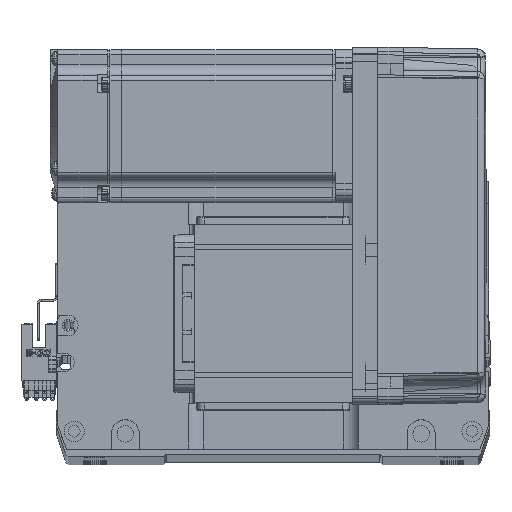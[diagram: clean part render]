
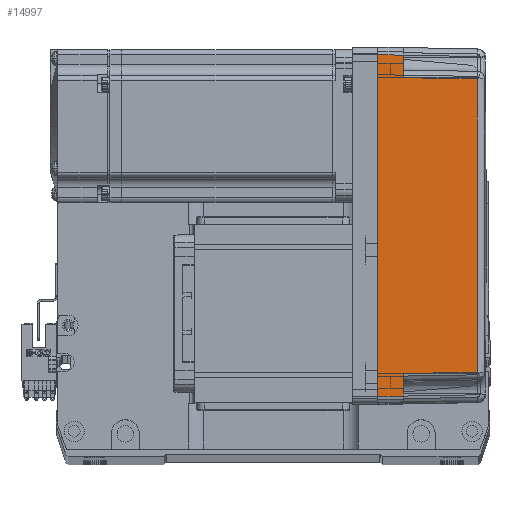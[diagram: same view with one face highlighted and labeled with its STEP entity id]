
A CAD part, top view. The second image highlights one B-rep face of the part: STEP entity #14997.
In plain terms, the highlighted planar face has unit normal (0.018, 0, 1) as drawn and (0, -1, 0.017) by its records, which use the part's own axes.
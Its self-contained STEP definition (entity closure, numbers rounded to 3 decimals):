
#801 = DIRECTION ( 'NONE',  ( -1., 0., 0. ) ) ;
#1224 = VECTOR ( 'NONE', #8664, 1000. ) ;
#2326 = VERTEX_POINT ( 'NONE', #10817 ) ;
#2987 = DIRECTION ( 'NONE',  ( -1., 0., 0. ) ) ;
#3172 = VECTOR ( 'NONE', #26058, 1000. ) ;
#3468 = VERTEX_POINT ( 'NONE', #46493 ) ;
#3782 = VECTOR ( 'NONE', #2987, 1000. ) ;
#4681 = DIRECTION ( 'NONE',  ( -0.017, 0.017, 1. ) ) ;
#7600 = LINE ( 'NONE', #19311, #1224 ) ;
#8376 = CARTESIAN_POINT ( 'NONE',  ( 70., -36., 0. ) ) ;
#8664 = DIRECTION ( 'NONE',  ( -0.017, -0.017, -1. ) ) ;
#8824 = DIRECTION ( 'NONE',  ( 0., -0.017, -1. ) ) ;
#10817 = CARTESIAN_POINT ( 'NONE',  ( -67., -36., 0. ) ) ;
#12611 = FACE_OUTER_BOUND ( 'NONE', #30782, .T. ) ;
#13489 = LINE ( 'NONE', #57104, #3172 ) ;
#14743 = VERTEX_POINT ( 'NONE', #26596 ) ;
#14997 = ADVANCED_FACE ( 'NONE', ( #12611 ), #49874, .T. ) ;
#16203 = LINE ( 'NONE', #35386, #32174 ) ;
#16831 = DIRECTION ( 'NONE',  ( 0.017, 0.017, 1. ) ) ;
#17720 = EDGE_CURVE ( 'NONE', #2326, #50457, #16203, .T. ) ;
#18504 = VERTEX_POINT ( 'NONE', #25422 ) ;
#19311 = CARTESIAN_POINT ( 'NONE',  ( -57.495, -35.32, 38.985 ) ) ;
#20419 = CARTESIAN_POINT ( 'NONE',  ( 70., -35.825, 10. ) ) ;
#20723 = CARTESIAN_POINT ( 'NONE',  ( 66.826, -35.825, 10. ) ) ;
#20788 = CARTESIAN_POINT ( 'NONE',  ( -57.495, -35.32, 38.985 ) ) ;
#21382 = EDGE_CURVE ( 'NONE', #52949, #14743, #7600, .T. ) ;
#22545 = ORIENTED_EDGE ( 'NONE', *, *, #57032, .T. ) ;
#24841 = EDGE_CURVE ( 'NONE', #3468, #51998, #13489, .T. ) ;
#25422 = CARTESIAN_POINT ( 'NONE',  ( 58., -35.825, 10. ) ) ;
#25425 = LINE ( 'NONE', #65859, #48562 ) ;
#26058 = DIRECTION ( 'NONE',  ( -0.017, 0.017, 1. ) ) ;
#26596 = CARTESIAN_POINT ( 'NONE',  ( -58., -35.825, 10. ) ) ;
#28421 = CARTESIAN_POINT ( 'NONE',  ( -57.495, -35.32, 38.985 ) ) ;
#29802 = B_SPLINE_CURVE_WITH_KNOTS ( 'NONE', 3,
 ( #51411, #47133, #35962, #20788 ),
 .UNSPECIFIED., .F., .F.,
 ( 4, 4 ),
 ( 0., 1. ),
 .UNSPECIFIED. ) ;
#29968 = ORIENTED_EDGE ( 'NONE', *, *, #34770, .F. ) ;
#30230 = EDGE_CURVE ( 'NONE', #32604, #52949, #29802, .T. ) ;
#30782 = EDGE_LOOP ( 'NONE', ( #40730, #22545, #63977, #49593, #43545, #63285, #50545, #29968 ) ) ;
#32174 = VECTOR ( 'NONE', #16831, 1000. ) ;
#32604 = VERTEX_POINT ( 'NONE', #40899 ) ;
#34770 = EDGE_CURVE ( 'NONE', #3468, #2326, #51259, .T. ) ;
#35386 = CARTESIAN_POINT ( 'NONE',  ( -66.959, -35.958, 2.39 ) ) ;
#35962 = CARTESIAN_POINT ( 'NONE',  ( -19.165, -35.316, 39.181 ) ) ;
#40223 = EDGE_CURVE ( 'NONE', #18504, #32604, #25425, .T. ) ;
#40730 = ORIENTED_EDGE ( 'NONE', *, *, #24841, .T. ) ;
#40899 = CARTESIAN_POINT ( 'NONE',  ( 57.495, -35.32, 38.985 ) ) ;
#42087 = LINE ( 'NONE', #64800, #3782 ) ;
#43545 = ORIENTED_EDGE ( 'NONE', *, *, #21382, .T. ) ;
#46379 = VECTOR ( 'NONE', #60258, 1000. ) ;
#46404 = VECTOR ( 'NONE', #801, 1000. ) ;
#46493 = CARTESIAN_POINT ( 'NONE',  ( 67., -36., 0. ) ) ;
#47133 = CARTESIAN_POINT ( 'NONE',  ( 19.165, -35.316, 39.181 ) ) ;
#48562 = VECTOR ( 'NONE', #4681, 1000. ) ;
#49593 = ORIENTED_EDGE ( 'NONE', *, *, #30230, .T. ) ;
#49874 = PLANE ( 'NONE',  #52417 ) ;
#50097 = CARTESIAN_POINT ( 'NONE',  ( -66.826, -35.825, 10. ) ) ;
#50457 = VERTEX_POINT ( 'NONE', #50097 ) ;
#50545 = ORIENTED_EDGE ( 'NONE', *, *, #17720, .F. ) ;
#51259 = LINE ( 'NONE', #60488, #46379 ) ;
#51411 = CARTESIAN_POINT ( 'NONE',  ( 57.495, -35.32, 38.985 ) ) ;
#51998 = VERTEX_POINT ( 'NONE', #20723 ) ;
#52417 = AXIS2_PLACEMENT_3D ( 'NONE', #8376, #54367, #8824 ) ;
#52949 = VERTEX_POINT ( 'NONE', #28421 ) ;
#54367 = DIRECTION ( 'NONE',  ( 0., -1., 0.017 ) ) ;
#57032 = EDGE_CURVE ( 'NONE', #51998, #18504, #42087, .T. ) ;
#57104 = CARTESIAN_POINT ( 'NONE',  ( 67., -36., 0. ) ) ;
#59991 = LINE ( 'NONE', #20419, #46404 ) ;
#59994 = EDGE_CURVE ( 'NONE', #14743, #50457, #59991, .T. ) ;
#60258 = DIRECTION ( 'NONE',  ( -1., 0., 0. ) ) ;
#60488 = CARTESIAN_POINT ( 'NONE',  ( 0., -36., 0. ) ) ;
#63285 = ORIENTED_EDGE ( 'NONE', *, *, #59994, .T. ) ;
#63977 = ORIENTED_EDGE ( 'NONE', *, *, #40223, .T. ) ;
#64800 = CARTESIAN_POINT ( 'NONE',  ( 70., -35.825, 10. ) ) ;
#65859 = CARTESIAN_POINT ( 'NONE',  ( 58., -35.825, 10. ) ) ;
